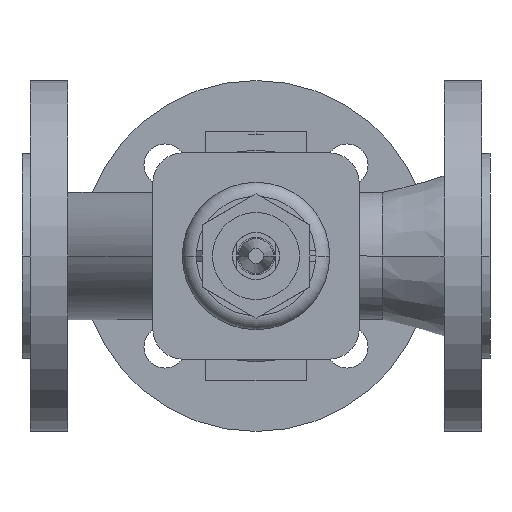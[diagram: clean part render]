
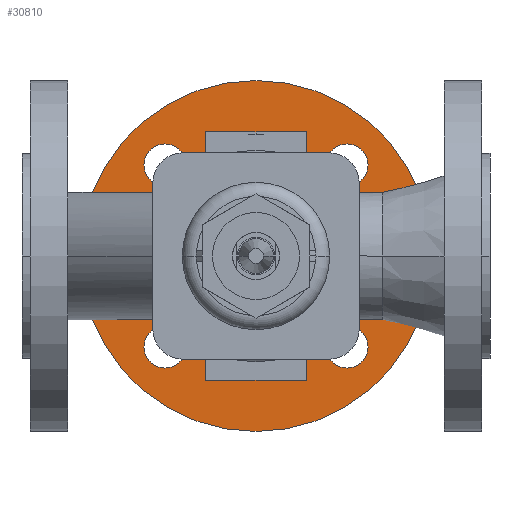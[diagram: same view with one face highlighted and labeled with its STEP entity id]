
A CAD part, front view. The second image highlights one B-rep face of the part: STEP entity #30810.
In plain terms, the highlighted planar face has unit normal (0, -1, 0).
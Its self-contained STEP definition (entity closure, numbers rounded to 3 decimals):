
#120=CARTESIAN_POINT('',(137.5,70.36,0.));
#130=VERTEX_POINT('',#120);
#290=CARTESIAN_POINT('',(62.5,70.36,0.));
#300=VERTEX_POINT('',#290);
#330=CARTESIAN_POINT('',(100.,70.36,0.));
#340=DIRECTION('',(0.,-1.,0.));
#350=DIRECTION('',(-1.,0.,0.));
#360=AXIS2_PLACEMENT_3D('',#330,#340,#350);
#370=CIRCLE('',#360,37.5);
#380=EDGE_CURVE('',#130,#300,#370,.T.);
#1080=CARTESIAN_POINT('',(25.,70.36,0.));
#1090=VERTEX_POINT('',#1080);
#1270=CARTESIAN_POINT('',(175.,70.36,0.));
#1280=VERTEX_POINT('',#1270);
#1310=CARTESIAN_POINT('',(100.,70.36,0.));
#1320=DIRECTION('',(0.,1.,0.));
#1330=DIRECTION('',(1.,0.,0.));
#1340=AXIS2_PLACEMENT_3D('',#1310,#1320,#1330);
#1350=CIRCLE('',#1340,75.);
#1360=EDGE_CURVE('',#1090,#1280,#1350,.T.);
#1570=CARTESIAN_POINT('',(147.891,70.36,38.891));
#1580=VERTEX_POINT('',#1570);
#1630=CARTESIAN_POINT('',(138.891,70.36,38.891));
#1640=DIRECTION('',(0.,-1.,0.));
#1650=DIRECTION('',(1.,0.,0.));
#1660=AXIS2_PLACEMENT_3D('',#1630,#1640,#1650);
#1670=CIRCLE('',#1660,9.);
#1680=CARTESIAN_POINT('',(129.891,70.36,38.891));
#1690=VERTEX_POINT('',#1680);
#1700=EDGE_CURVE('',#1690,#1580,#1670,.T.);
#2060=CARTESIAN_POINT('',(129.891,70.36,-38.891));
#2070=VERTEX_POINT('',#2060);
#2120=CARTESIAN_POINT('',(138.891,70.36,-38.891));
#2130=DIRECTION('',(0.,-1.,0.));
#2140=DIRECTION('',(1.,0.,0.));
#2150=AXIS2_PLACEMENT_3D('',#2120,#2130,#2140);
#2160=CIRCLE('',#2150,9.);
#2170=CARTESIAN_POINT('',(147.891,70.36,-38.891));
#2180=VERTEX_POINT('',#2170);
#2190=EDGE_CURVE('',#2180,#2070,#2160,.T.);
#2550=CARTESIAN_POINT('',(52.109,70.36,-38.891));
#2560=VERTEX_POINT('',#2550);
#2610=CARTESIAN_POINT('',(61.109,70.36,-38.891));
#2620=DIRECTION('',(0.,-1.,0.));
#2630=DIRECTION('',(1.,0.,0.));
#2640=AXIS2_PLACEMENT_3D('',#2610,#2620,#2630);
#2650=CIRCLE('',#2640,9.);
#2660=CARTESIAN_POINT('',(70.109,70.36,-38.891));
#2670=VERTEX_POINT('',#2660);
#2680=EDGE_CURVE('',#2670,#2560,#2650,.T.);
#3040=CARTESIAN_POINT('',(70.109,70.36,38.891));
#3050=VERTEX_POINT('',#3040);
#3100=CARTESIAN_POINT('',(61.109,70.36,38.891));
#3110=DIRECTION('',(0.,-1.,0.));
#3120=DIRECTION('',(1.,0.,0.));
#3130=AXIS2_PLACEMENT_3D('',#3100,#3110,#3120);
#3140=CIRCLE('',#3130,9.);
#3150=CARTESIAN_POINT('',(52.109,70.36,38.891));
#3160=VERTEX_POINT('',#3150);
#3170=EDGE_CURVE('',#3160,#3050,#3140,.T.);
#30460=CARTESIAN_POINT('',(59.25,70.36,0.));
#30470=DIRECTION('',(0.,-1.,0.));
#30480=DIRECTION('',(-1.,0.,0.));
#30490=AXIS2_PLACEMENT_3D('',#30460,#30470,#30480);
#30500=PLANE('',#30490);
#30510=EDGE_CURVE('',#1280,#1090,#1350,.T.);
#30520=ORIENTED_EDGE('',*,*,#30510,.F.);
#30530=ORIENTED_EDGE('',*,*,#1360,.F.);
#30540=EDGE_LOOP('',(#30530,#30520));
#30550=FACE_OUTER_BOUND('',#30540,.T.);
#30560=EDGE_CURVE('',#1580,#1690,#1670,.T.);
#30570=ORIENTED_EDGE('',*,*,#30560,.F.);
#30580=ORIENTED_EDGE('',*,*,#1700,.F.);
#30590=EDGE_LOOP('',(#30580,#30570));
#30600=FACE_BOUND('',#30590,.T.);
#30610=EDGE_CURVE('',#2070,#2180,#2160,.T.);
#30620=ORIENTED_EDGE('',*,*,#30610,.F.);
#30630=ORIENTED_EDGE('',*,*,#2190,.F.);
#30640=EDGE_LOOP('',(#30630,#30620));
#30650=FACE_BOUND('',#30640,.T.);
#30660=ORIENTED_EDGE('',*,*,#2680,.F.);
#30670=EDGE_CURVE('',#2560,#2670,#2650,.T.);
#30680=ORIENTED_EDGE('',*,*,#30670,.F.);
#30690=EDGE_LOOP('',(#30680,#30660));
#30700=FACE_BOUND('',#30690,.T.);
#30710=EDGE_CURVE('',#3050,#3160,#3140,.T.);
#30720=ORIENTED_EDGE('',*,*,#30710,.F.);
#30730=ORIENTED_EDGE('',*,*,#3170,.F.);
#30740=EDGE_LOOP('',(#30730,#30720));
#30750=FACE_BOUND('',#30740,.T.);
#30760=EDGE_CURVE('',#300,#130,#370,.T.);
#30770=ORIENTED_EDGE('',*,*,#30760,.F.);
#30780=ORIENTED_EDGE('',*,*,#380,.F.);
#30790=EDGE_LOOP('',(#30780,#30770));
#30800=FACE_BOUND('',#30790,.T.);
#30810=ADVANCED_FACE('',(#30550,#30600,#30650,#30700,#30750,#30800),
#30500,.T.);
